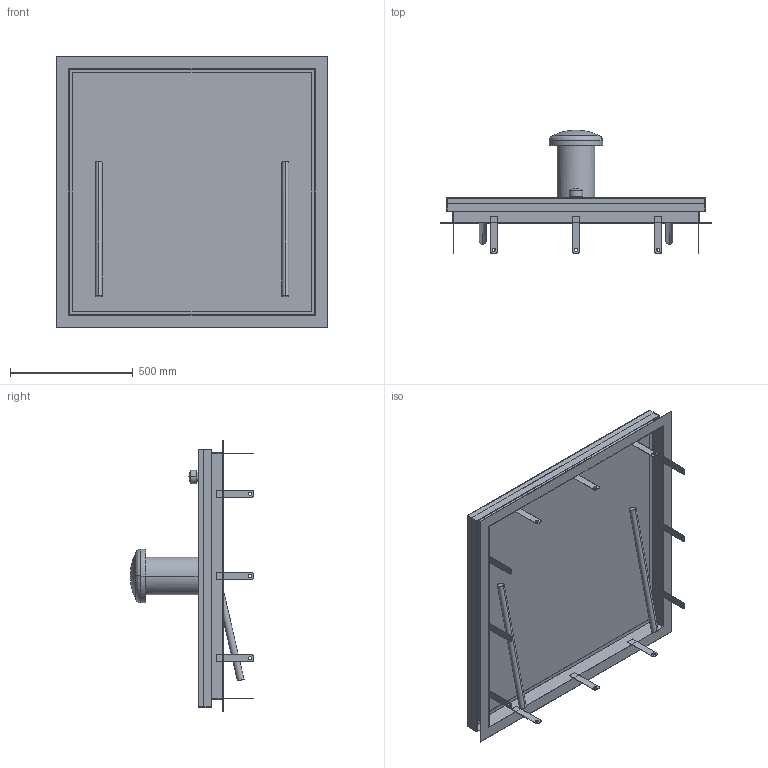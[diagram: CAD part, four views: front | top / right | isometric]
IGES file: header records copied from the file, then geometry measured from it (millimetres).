
Start section:  PTC IGES file: 51431369.igs
Global section: file name: 51431369.igs; native system: Creo Parametric by PTC Inc.; preprocessor: 2019224; author: wj; organization: Unknown; date: 20191205.105328; units: millimetre
Bounding box: 1100 x 503 x 1100 mm (x, y, z)
Surface area: 6278136.1 mm2 (no closed solid volume)
Topology: 0 solids, 0 shells, 157 faces, 788 edges, 784 vertices
Faces by surface type: bspline 103, revolution 54
